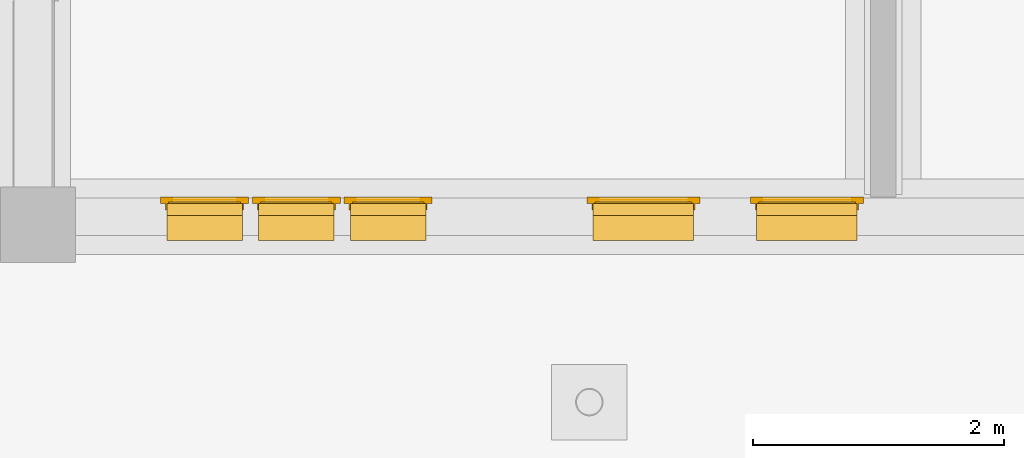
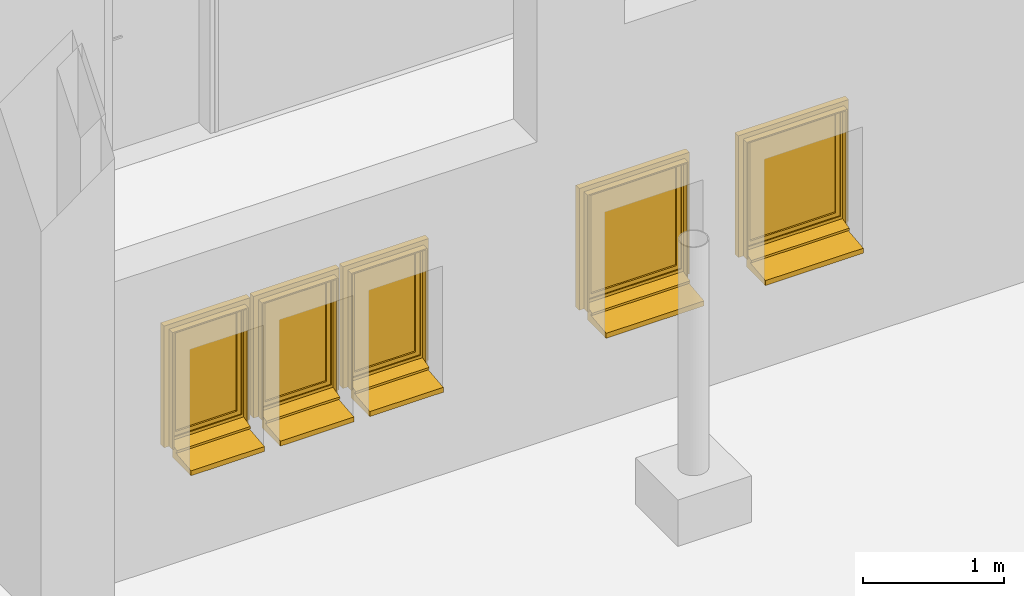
# One storey, part 13 of 20: 5 windows.
"""IFC2X3 building model written with IfcOpenShell, lengths in metres."""

from ifc_helpers import new_model, entity, si_unit, converted_unit, derived_unit, direction, frame, origin, place, context, subcontext, project, spatial, faceted_brep, source, transform, mapped, material, material_list, type_object, type_shapes, element, save


model = new_model("IFC2X3")

# Units and contexts
model_context = context("Model", 3, precision=1e-05, world=origin(), true_north=direction((6.12303176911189e-17, 1.0)))
body_context = subcontext(model_context, "Body", "Model", "MODEL_VIEW")
ifc_project = project(units=[si_unit("LENGTHUNIT", "METRE"), si_unit("AREAUNIT", "SQUARE_METRE"), si_unit("VOLUMEUNIT", "CUBIC_METRE"), converted_unit("PLANEANGLEUNIT", "DEGREE", entity("IfcRatioMeasure", 0.0174532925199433), si_unit("PLANEANGLEUNIT", "RADIAN"), dimensions=[0, 0, 0, 0, 0, 0, 0]), si_unit("MASSUNIT", "GRAM", prefix="KILO"), derived_unit("MASSDENSITYUNIT", [(si_unit("MASSUNIT", "GRAM", prefix="KILO"), 1), (si_unit("LENGTHUNIT", "METRE"), -3)]), derived_unit("MOMENTOFINERTIAUNIT", [(si_unit("LENGTHUNIT", "METRE"), 4)]), si_unit("TIMEUNIT", "SECOND"), si_unit("FREQUENCYUNIT", "HERTZ"), si_unit("THERMODYNAMICTEMPERATUREUNIT", "DEGREE_CELSIUS"), derived_unit("THERMALTRANSMITTANCEUNIT", [(si_unit("MASSUNIT", "GRAM", prefix="KILO"), 1), (si_unit("THERMODYNAMICTEMPERATUREUNIT", "KELVIN"), -1), (si_unit("TIMEUNIT", "SECOND"), -3)]), derived_unit("VOLUMETRICFLOWRATEUNIT", [(si_unit("LENGTHUNIT", "METRE"), 3), (si_unit("TIMEUNIT", "SECOND"), -1)]), si_unit("ELECTRICCURRENTUNIT", "AMPERE"), si_unit("ELECTRICVOLTAGEUNIT", "VOLT"), si_unit("POWERUNIT", "WATT"), si_unit("FORCEUNIT", "NEWTON", prefix="KILO"), si_unit("ILLUMINANCEUNIT", "LUX"), si_unit("LUMINOUSFLUXUNIT", "LUMEN"), si_unit("LUMINOUSINTENSITYUNIT", "CANDELA"), derived_unit("USERDEFINED", [(si_unit("MASSUNIT", "GRAM", prefix="KILO"), -1), (si_unit("LENGTHUNIT", "METRE"), -2), (si_unit("TIMEUNIT", "SECOND"), 3), (si_unit("LUMINOUSFLUXUNIT", "LUMEN"), 1)]), derived_unit("LINEARVELOCITYUNIT", [(si_unit("LENGTHUNIT", "METRE"), 1), (si_unit("TIMEUNIT", "SECOND"), -1)]), si_unit("PRESSUREUNIT", "PASCAL"), derived_unit("USERDEFINED", [(si_unit("LENGTHUNIT", "METRE"), -2), (si_unit("MASSUNIT", "GRAM", prefix="KILO"), 1), (si_unit("TIMEUNIT", "SECOND"), -2)]), derived_unit("LINEARFORCEUNIT", [(si_unit("MASSUNIT", "GRAM", prefix="KILO"), 1), (si_unit("LENGTHUNIT", "METRE"), 1), (si_unit("TIMEUNIT", "SECOND"), -2), (si_unit("LENGTHUNIT", "METRE"), -1)]), derived_unit("PLANARFORCEUNIT", [(si_unit("MASSUNIT", "GRAM", prefix="KILO"), 1), (si_unit("LENGTHUNIT", "METRE"), 1), (si_unit("TIMEUNIT", "SECOND"), -2), (si_unit("LENGTHUNIT", "METRE"), -2)])], contexts=[model_context])

# Site, building, storey
site_placement = place(None, origin())
site = spatial("IfcSite", under=ifc_project, at=site_placement, Name="Surface", CompositionType="ELEMENT")
building_placement = place(site_placement, origin())
building = spatial("IfcBuilding", under=site, at=building_placement, CompositionType="ELEMENT")
storey_placement = place(building_placement, origin())
storey = spatial("IfcBuildingStorey", under=building, at=storey_placement, Name="Niveau rdc", CompositionType="ELEMENT", Elevation=-1.94916083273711e-14)

# Windows
ifc_material_1 = material(Name="Fenêtre - Poignée")
ifc_material_2 = material(Name="Fenêtre - Appui")
ifc_material_3 = material(Name="Fenêtre - Vitrage")
ifc_material_4 = material(Name="Fenêtre - Cadre(1)")
ifc_material_5 = material(Name="Fenêtre - Cadre")
ifc_material_list_1 = material_list([ifc_material_1, ifc_material_2, ifc_material_3, ifc_material_4, ifc_material_5])
ifc_material_list_2 = material_list([ifc_material_1, ifc_material_2, ifc_material_4, ifc_material_5, ifc_material_3])
window_style_1 = type_object("IfcWindowStyle", Name="1 Vantail - Droit:0.80m x 1.00m - Appui Béton 2", ConstructionType="NOTDEFINED", OperationType="SINGLE_PANEL", ParameterTakesPrecedence=False, Sizeable=False, material=ifc_material_list_2)
shared_shape_1 = source(origin(), body_context, "Body", "Brep", [
    faceted_brep([(0.0806460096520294, -0.67100000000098, 0.702033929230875), (0.0820339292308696, -0.67100000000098, 0.700646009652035), (0.0820339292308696, -0.67100000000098, 0.68933230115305), (0.0806676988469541, -0.67100000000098, 0.687966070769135), (0.0693323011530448, -0.67100000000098, 0.687966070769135), (0.0679660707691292, -0.67100000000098, 0.689332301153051), (0.0679660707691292, -0.67100000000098, 0.700646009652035), (0.0693539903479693, -0.67100000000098, 0.702033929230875), (0.0806460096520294, -0.683913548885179, 0.702033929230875), (0.0820339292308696, -0.68333865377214, 0.700646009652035), (0.0820339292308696, -0.69664600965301, 0.687338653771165), (0.0820339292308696, -0.69664600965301, 0.600000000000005), (0.0820339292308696, -0.685332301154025, 0.600000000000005), (0.0820339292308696, -0.685332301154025, 0.68265236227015), (0.0820339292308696, -0.678652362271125, 0.68933230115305), (0.0806676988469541, -0.678086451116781, 0.687966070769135), (0.0693323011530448, -0.678086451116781, 0.687966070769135), (0.0679660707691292, -0.678652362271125, 0.689332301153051), (0.0679660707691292, -0.685332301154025, 0.68265236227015), (0.0679660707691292, -0.685332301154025, 0.600000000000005), (0.0679660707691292, -0.69664600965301, 0.600000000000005), (0.0679660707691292, -0.69664600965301, 0.687338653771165), (0.0679660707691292, -0.68333865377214, 0.700646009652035), (0.0693539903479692, -0.683913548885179, 0.702033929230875), (0.0806460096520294, -0.69803392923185, 0.687913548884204), (0.0806676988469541, -0.68396607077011, 0.682086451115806), (0.0693323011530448, -0.683966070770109, 0.682086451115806), (0.0693539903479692, -0.69803392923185, 0.687913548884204), (0.0806460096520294, -0.69803392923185, 0.600000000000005), (0.0693539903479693, -0.69803392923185, 0.600000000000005), (0.0693323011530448, -0.683966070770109, 0.600000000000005), (0.0806676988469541, -0.683966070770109, 0.600000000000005)], [[[0, 1, 2, 3, 4, 5, 6, 7]], [[1, 0, 8, 9]], [[2, 1, 9, 10, 11, 12, 13, 14]], [[3, 2, 14, 15]], [[4, 3, 15, 16]], [[5, 4, 16, 17]], [[6, 5, 17, 18, 19, 20, 21, 22]], [[7, 6, 22, 23]], [[0, 7, 23, 8]], [[9, 8, 24, 10]], [[15, 14, 13, 25]], [[16, 15, 25, 26]], [[17, 16, 26, 18]], [[23, 22, 21, 27]], [[8, 23, 27, 24]], [[28, 29, 20, 19, 30, 31, 12, 11]], [[10, 24, 28, 11]], [[25, 13, 12, 31]], [[26, 25, 31, 30]], [[18, 26, 30, 19]], [[27, 21, 20, 29]], [[24, 27, 29, 28]]]),
    faceted_brep([(0.0820000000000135, -0.671000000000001, 0.720000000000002), (0.0679999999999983, -0.671000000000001, 0.720000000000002), (0.0629999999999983, -0.671000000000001, 0.715000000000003), (0.0629999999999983, -0.671000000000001, 0.644999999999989), (0.0679999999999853, -0.671000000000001, 0.640000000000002), (0.0820000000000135, -0.671000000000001, 0.640000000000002), (0.0869999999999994, -0.671000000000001, 0.644999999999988), (0.0869999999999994, -0.671000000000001, 0.715000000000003), (0.0820000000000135, -0.665000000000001, 0.720000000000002), (0.0869999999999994, -0.665000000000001, 0.715000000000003), (0.0869999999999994, -0.665000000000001, 0.644999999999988), (0.0820000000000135, -0.665000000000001, 0.640000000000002), (0.0679999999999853, -0.665000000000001, 0.640000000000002), (0.0629999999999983, -0.665000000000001, 0.644999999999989), (0.0629999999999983, -0.665000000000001, 0.715000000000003), (0.0679999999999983, -0.665000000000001, 0.720000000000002)], [[[0, 1, 2, 3, 4, 5, 6, 7]], [[8, 9, 10, 11, 12, 13, 14, 15]], [[1, 0, 8, 15]], [[2, 1, 15, 14]], [[3, 2, 14, 13]], [[4, 3, 13, 12]], [[5, 4, 12, 11]], [[6, 5, 11, 10]], [[7, 6, 10, 9]], [[0, 7, 9, 8]]]),
    faceted_brep([(0.0499999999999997, -0.584999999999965, 0.0799999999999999), (0.0499999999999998, -0.534999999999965, 0.0799999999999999), (0.0499999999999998, -0.534999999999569, 0.0650000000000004), (0.0500000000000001, -0.319999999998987, 0.0424025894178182), (0.0500000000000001, -0.319999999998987, 0.0), (0.0499999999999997, -0.584999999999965, 0.0), (0.85, -0.584999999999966, 0.0799999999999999), (0.85, -0.584999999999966, 0.0), (0.85, -0.319999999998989, 0.0), (0.85, -0.319999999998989, 0.0424025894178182), (0.85, -0.534999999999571, 0.0650000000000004), (0.85, -0.534999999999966, 0.0799999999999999)], [[[0, 1, 2, 3, 4, 5]], [[6, 7, 8, 9, 10, 11]], [[1, 0, 6, 11]], [[2, 1, 11, 10]], [[3, 2, 10, 9]], [[4, 3, 9, 8]], [[5, 4, 8, 7]], [[0, 5, 7, 6]]]),
    faceted_brep([(0.099999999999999, -0.639000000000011, 0.179999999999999), (0.099999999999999, -0.639000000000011, 1.03), (0.8, -0.639000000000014, 1.03), (0.8, -0.639000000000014, 0.179999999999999), (0.0999999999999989, -0.651000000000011, 0.179999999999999), (0.8, -0.651000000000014, 0.179999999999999), (0.8, -0.651000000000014, 1.03), (0.0999999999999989, -0.651000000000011, 1.03)], [[[0, 1, 2, 3]], [[4, 5, 6, 7]], [[1, 0, 4, 7]], [[2, 1, 7, 6]], [[3, 2, 6, 5]], [[0, 3, 5, 4]]]),
    faceted_brep([(0.099999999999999, -0.625000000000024, 0.179999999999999), (0.0999999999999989, -0.665000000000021, 0.179999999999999), (0.8, -0.665000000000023, 0.179999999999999), (0.8, -0.625000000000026, 0.179999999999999), (0.0499999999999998, -0.66500000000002, 0.13), (0.0499999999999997, -0.625000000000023, 0.13), (0.85, -0.625000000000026, 0.13), (0.85, -0.665000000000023, 0.13), (0.8, -0.665000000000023, 1.03), (0.8, -0.625000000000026, 1.03), (0.85, -0.625000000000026, 1.08), (0.85, -0.665000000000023, 1.08), (0.0999999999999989, -0.665000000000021, 1.03), (0.0999999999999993, -0.625000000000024, 1.03), (0.0499999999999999, -0.625000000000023, 1.08), (0.0499999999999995, -0.665000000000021, 1.08)], [[[0, 1, 2, 3]], [[4, 5, 6, 7]], [[3, 2, 8, 9]], [[7, 6, 10, 11]], [[9, 8, 12, 13]], [[11, 10, 14, 15]], [[13, 12, 1, 0]], [[3, 9, 13, 0], [5, 14, 10, 6]], [[15, 14, 5, 4]], [[7, 11, 15, 4], [1, 12, 8, 2]]], outer=[[True], [True], [True], [True], [True], [True], [True], [False, True], [True], [True, False]]),
    faceted_brep([(0.0, -0.665000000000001, 0.0799999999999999), (0.0, -0.615000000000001, 0.0799999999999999), (0.0499999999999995, -0.615000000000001, 0.0799999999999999), (0.0499999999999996, -0.530000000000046, 0.0799999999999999), (0.85, -0.530000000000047, 0.0800000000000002), (0.85, -0.615000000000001, 0.0799999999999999), (0.899999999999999, -0.615000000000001, 0.0799999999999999), (0.899999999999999, -0.665000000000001, 0.0799999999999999), (0.0, -0.665000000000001, 1.13), (0.0, -0.615000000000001, 1.13), (0.899999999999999, -0.615000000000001, 1.13), (0.85, -0.615000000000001, 0.119376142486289), (0.0499999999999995, -0.615000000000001, 0.119376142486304), (0.0649999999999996, -0.615000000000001, 1.065), (0.0649999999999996, -0.615000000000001, 0.145), (0.835, -0.615000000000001, 0.145), (0.835, -0.615000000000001, 1.065), (0.0499999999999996, -0.520000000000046, 0.0939209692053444), (0.0499999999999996, -0.520000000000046, 0.0749999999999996), (0.0499999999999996, -0.530000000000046, 0.0749999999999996), (0.85, -0.530000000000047, 0.0749999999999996), (0.85, -0.520000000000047, 0.0749999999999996), (0.85, -0.520000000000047, 0.0939209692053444), (0.899999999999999, -0.665000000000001, 1.13), (0.85, -0.665000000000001, 1.08), (0.85, -0.665000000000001, 0.13), (0.0499999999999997, -0.665000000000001, 0.13), (0.0499999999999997, -0.665000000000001, 1.08), (0.0649999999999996, -0.625000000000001, 1.065), (0.0649999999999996, -0.625000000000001, 0.145), (0.835, -0.625000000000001, 0.145), (0.835, -0.625000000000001, 1.065), (0.85, -0.625000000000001, 1.08), (0.0499999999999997, -0.625000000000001, 1.08), (0.0499999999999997, -0.625000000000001, 0.13), (0.85, -0.625000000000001, 0.13)], [[[0, 1, 2, 3, 4, 5, 6, 7]], [[1, 0, 8, 9]], [[1, 9, 10, 6, 5, 11, 12, 2], [13, 14, 15, 16]], [[12, 17, 18, 19, 3, 2]], [[3, 19, 20, 4]], [[4, 20, 21, 22, 11, 5]], [[6, 10, 23, 7]], [[0, 7, 23, 8], [24, 25, 26, 27]], [[13, 28, 29, 14]], [[29, 30, 15, 14]], [[31, 16, 15, 30]], [[13, 16, 31, 28]], [[17, 12, 11, 22]], [[28, 31, 30, 29], [32, 33, 34, 35]], [[34, 33, 27, 26]], [[26, 25, 35, 34]], [[24, 32, 35, 25]], [[18, 17, 22, 21]], [[19, 18, 21, 20]], [[33, 32, 24, 27]], [[10, 9, 8, 23]]], outer=[[True], [True], [True, False], [True], [True], [True], [True], [True, False], [True], [True], [True], [True], [True], [False, True], [True], [True], [True], [True], [True], [True], [True]]),
    faceted_brep([(0.0499999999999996, -0.564999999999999, 0.0799999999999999), (0.0499999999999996, -0.615000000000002, 0.0799999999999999), (0.0399999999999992, -0.615000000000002, 0.0799999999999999), (0.0399999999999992, -0.564999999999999, 0.0799999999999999), (0.0499999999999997, -0.564999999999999, 1.08), (0.0499999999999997, -0.615000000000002, 1.08), (0.85, -0.615000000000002, 1.08), (0.85, -0.615000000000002, 0.0799999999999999), (0.86, -0.615000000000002, 0.0799999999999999), (0.86, -0.615000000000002, 1.09), (0.0399999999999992, -0.615000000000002, 1.09), (0.0399999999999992, -0.564999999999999, 1.09), (0.86, -0.564999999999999, 1.09), (0.86, -0.564999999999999, 0.0799999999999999), (0.85, -0.564999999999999, 0.0799999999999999), (0.85, -0.564999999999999, 1.08)], [[[0, 1, 2, 3]], [[1, 0, 4, 5]], [[2, 1, 5, 6, 7, 8, 9, 10]], [[3, 2, 10, 11]], [[0, 3, 11, 12, 13, 14, 15, 4]], [[6, 15, 14, 7]], [[14, 13, 8, 7]], [[12, 9, 8, 13]], [[5, 4, 15, 6]], [[11, 10, 9, 12]]]),
])
type_shapes(window_style_1, [shared_shape_1])
window_1_placement = place(storey_placement, frame((8.31939607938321, -1.0907418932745, 0.720000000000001), z_axis=(0.0, 0.0, 1.0), x_axis=(-1.0, 0.0, 0.0)))
element("IfcWindow", 1, at=window_1_placement, inside=storey, type_object=window_style_1, material=ifc_material_list_1, Name="1 Vantail - Droit:0.80m x 1.00m - Appui Béton 2", ObjectType="1 Vantail - Droit:0.80m x 1.00m - Appui Béton 2", OverallHeight=1.13, OverallWidth=0.9, context=body_context, shape_type="MappedRepresentation", body=[
    mapped(shared_shape_1, transform((0.0, 0.0, 0.0), scale=1.0)),
])
ifc_material_list_3 = material_list([ifc_material_1, ifc_material_2, ifc_material_3, ifc_material_4, ifc_material_5])
window_2_placement = place(storey_placement, frame((7.01939607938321, -1.09074189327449, 0.720000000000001), z_axis=(0.0, 0.0, 1.0), x_axis=(-1.0, 0.0, 0.0)))
element("IfcWindow", 2, at=window_2_placement, inside=storey, type_object=window_style_1, material=ifc_material_list_3, Name="1 Vantail - Droit:0.80m x 1.00m - Appui Béton 2", ObjectType="1 Vantail - Droit:0.80m x 1.00m - Appui Béton 2", OverallHeight=1.13, OverallWidth=0.9, context=body_context, shape_type="MappedRepresentation", body=[
    mapped(shared_shape_1, transform((0.0, 0.0, 0.0), scale=1.0)),
])
ifc_material_list_4 = material_list([ifc_material_1, ifc_material_2, ifc_material_3, ifc_material_5])
ifc_material_list_5 = material_list([ifc_material_5, ifc_material_3, ifc_material_2, ifc_material_1])
window_style_2 = type_object("IfcWindowStyle", Name="1 Vantail - Droit:0.60m x 1.00m - Appui Béton 3", ConstructionType="NOTDEFINED", OperationType="SINGLE_PANEL", ParameterTakesPrecedence=False, Sizeable=False, material=ifc_material_list_5)
shared_shape_2 = source(origin(), body_context, "Body", "Brep", [
    faceted_brep([(0.0806460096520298, -0.67100000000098, 0.702033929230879), (0.08203392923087, -0.67100000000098, 0.700646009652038), (0.08203392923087, -0.67100000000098, 0.689332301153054), (0.0806676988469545, -0.67100000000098, 0.687966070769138), (0.0693323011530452, -0.67100000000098, 0.687966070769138), (0.0679660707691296, -0.67100000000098, 0.689332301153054), (0.0679660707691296, -0.67100000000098, 0.700646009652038), (0.0693539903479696, -0.67100000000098, 0.702033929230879), (0.0806460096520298, -0.683913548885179, 0.702033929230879), (0.08203392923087, -0.68333865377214, 0.700646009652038), (0.08203392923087, -0.69664600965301, 0.687338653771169), (0.08203392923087, -0.69664600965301, 0.600000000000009), (0.08203392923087, -0.685332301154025, 0.600000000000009), (0.08203392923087, -0.685332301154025, 0.682652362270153), (0.08203392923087, -0.678652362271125, 0.689332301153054), (0.0806676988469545, -0.67808645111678, 0.687966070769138), (0.0693323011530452, -0.67808645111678, 0.687966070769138), (0.0679660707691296, -0.678652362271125, 0.689332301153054), (0.0679660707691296, -0.685332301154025, 0.682652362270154), (0.0679660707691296, -0.685332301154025, 0.600000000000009), (0.0679660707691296, -0.69664600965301, 0.600000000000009), (0.0679660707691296, -0.69664600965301, 0.687338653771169), (0.0679660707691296, -0.68333865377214, 0.700646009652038), (0.0693539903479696, -0.683913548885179, 0.702033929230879), (0.0806460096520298, -0.69803392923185, 0.687913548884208), (0.0806676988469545, -0.683966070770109, 0.68208645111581), (0.0693323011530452, -0.683966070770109, 0.68208645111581), (0.0693539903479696, -0.69803392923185, 0.687913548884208), (0.0806460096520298, -0.69803392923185, 0.600000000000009), (0.0693539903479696, -0.69803392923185, 0.600000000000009), (0.0693323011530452, -0.683966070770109, 0.600000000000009), (0.0806676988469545, -0.683966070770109, 0.600000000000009)], [[[0, 1, 2, 3, 4, 5, 6, 7]], [[1, 0, 8, 9]], [[2, 1, 9, 10, 11, 12, 13, 14]], [[3, 2, 14, 15]], [[4, 3, 15, 16]], [[5, 4, 16, 17]], [[6, 5, 17, 18, 19, 20, 21, 22]], [[7, 6, 22, 23]], [[0, 7, 23, 8]], [[9, 8, 24, 10]], [[15, 14, 13, 25]], [[16, 15, 25, 26]], [[17, 16, 26, 18]], [[23, 22, 21, 27]], [[8, 23, 27, 24]], [[28, 29, 20, 19, 30, 31, 12, 11]], [[10, 24, 28, 11]], [[25, 13, 12, 31]], [[26, 25, 31, 30]], [[18, 26, 30, 19]], [[27, 21, 20, 29]], [[24, 27, 29, 28]]]),
    faceted_brep([(0.0820000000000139, -0.671000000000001, 0.720000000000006), (0.0679999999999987, -0.671000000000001, 0.720000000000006), (0.0629999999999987, -0.671000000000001, 0.715000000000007), (0.0629999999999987, -0.671000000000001, 0.644999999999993), (0.0679999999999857, -0.671000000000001, 0.640000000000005), (0.0820000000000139, -0.671000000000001, 0.640000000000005), (0.0869999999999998, -0.671000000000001, 0.644999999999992), (0.0869999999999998, -0.671000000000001, 0.715000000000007), (0.0820000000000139, -0.665000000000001, 0.720000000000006), (0.0869999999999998, -0.665000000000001, 0.715000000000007), (0.0869999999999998, -0.665000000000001, 0.644999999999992), (0.0820000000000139, -0.665000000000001, 0.640000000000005), (0.0679999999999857, -0.665000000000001, 0.640000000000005), (0.0629999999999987, -0.665000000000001, 0.644999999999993), (0.0629999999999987, -0.665000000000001, 0.715000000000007), (0.0679999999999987, -0.665000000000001, 0.720000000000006)], [[[0, 1, 2, 3, 4, 5, 6, 7]], [[8, 9, 10, 11, 12, 13, 14, 15]], [[1, 0, 8, 15]], [[2, 1, 15, 14]], [[3, 2, 14, 13]], [[4, 3, 13, 12]], [[5, 4, 12, 11]], [[6, 5, 11, 10]], [[7, 6, 10, 9]], [[0, 7, 9, 8]]]),
    faceted_brep([(0.0499999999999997, -0.584999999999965, 0.0799999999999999), (0.0499999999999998, -0.534999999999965, 0.0799999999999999), (0.0499999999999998, -0.534999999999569, 0.0650000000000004), (0.0500000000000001, -0.319999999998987, 0.0424025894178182), (0.0500000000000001, -0.319999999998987, 0.0), (0.0499999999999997, -0.584999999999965, 0.0), (0.649999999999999, -0.584999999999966, 0.0799999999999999), (0.649999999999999, -0.584999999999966, 0.0), (0.65, -0.319999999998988, 0.0), (0.65, -0.319999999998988, 0.0424025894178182), (0.649999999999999, -0.53499999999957, 0.0650000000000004), (0.649999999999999, -0.534999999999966, 0.0799999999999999)], [[[0, 1, 2, 3, 4, 5]], [[6, 7, 8, 9, 10, 11]], [[1, 0, 6, 11]], [[2, 1, 11, 10]], [[3, 2, 10, 9]], [[4, 3, 9, 8]], [[5, 4, 8, 7]], [[0, 5, 7, 6]]]),
    faceted_brep([(0.0999999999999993, -0.639000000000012, 0.18), (0.0999999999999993, -0.639000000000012, 1.03), (0.6, -0.639000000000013, 1.03), (0.6, -0.639000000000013, 0.18), (0.0999999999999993, -0.651000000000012, 0.18), (0.0999999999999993, -0.651000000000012, 1.03), (0.599999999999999, -0.651000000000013, 1.03), (0.599999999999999, -0.651000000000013, 0.18)], [[[0, 1, 2, 3]], [[1, 0, 4, 5]], [[3, 2, 6, 7]], [[0, 3, 7, 4]], [[4, 7, 6, 5]], [[2, 1, 5, 6]]]),
    faceted_brep([(0.0999999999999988, -0.625000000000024, 1.03), (0.0999999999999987, -0.665000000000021, 1.03), (0.0999999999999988, -0.665000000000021, 0.179999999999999), (0.099999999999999, -0.625000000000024, 0.179999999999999), (0.6, -0.665000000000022, 0.179999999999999), (0.6, -0.625000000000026, 0.179999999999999), (0.6, -0.665000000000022, 1.03), (0.649999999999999, -0.665000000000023, 0.13), (0.649999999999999, -0.665000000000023, 1.08), (0.0499999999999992, -0.665000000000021, 1.08), (0.0499999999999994, -0.665000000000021, 0.13), (0.6, -0.625000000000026, 1.03), (0.0499999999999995, -0.625000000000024, 0.13), (0.0499999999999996, -0.625000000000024, 1.08), (0.65, -0.625000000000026, 1.08), (0.65, -0.625000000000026, 0.13)], [[[0, 1, 2, 3]], [[3, 2, 4, 5]], [[2, 1, 6, 4], [7, 8, 9, 10]], [[5, 4, 6, 11]], [[5, 11, 0, 3], [12, 13, 14, 15]], [[9, 13, 12, 10]], [[10, 12, 15, 7]], [[7, 15, 14, 8]], [[11, 6, 1, 0]], [[8, 14, 13, 9]]], outer=[[True], [True], [False, True], [True], [False, True], [True], [True], [True], [True], [True]]),
    faceted_brep([(0.0, -0.665000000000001, 0.0799999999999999), (0.0, -0.615000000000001, 0.0799999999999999), (0.0499999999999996, -0.615000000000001, 0.0799999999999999), (0.0499999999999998, -0.530000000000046, 0.0799999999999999), (0.649999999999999, -0.530000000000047, 0.0800000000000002), (0.649999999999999, -0.615000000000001, 0.0799999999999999), (0.699999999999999, -0.615000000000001, 0.0799999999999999), (0.699999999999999, -0.665000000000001, 0.0799999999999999), (0.0, -0.665000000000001, 1.13), (0.0, -0.615000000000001, 1.13), (0.699999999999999, -0.615000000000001, 1.13), (0.649999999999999, -0.615000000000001, 0.119376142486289), (0.0499999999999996, -0.615000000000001, 0.119376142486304), (0.0649999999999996, -0.615000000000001, 1.065), (0.0649999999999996, -0.615000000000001, 0.145), (0.634999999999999, -0.615000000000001, 0.145), (0.634999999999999, -0.615000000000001, 1.065), (0.0499999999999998, -0.520000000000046, 0.0939209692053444), (0.0499999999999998, -0.520000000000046, 0.0749999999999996), (0.0499999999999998, -0.530000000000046, 0.0749999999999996), (0.649999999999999, -0.530000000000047, 0.0749999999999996), (0.649999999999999, -0.520000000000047, 0.0749999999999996), (0.649999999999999, -0.520000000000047, 0.0939209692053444), (0.699999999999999, -0.665000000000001, 1.13), (0.649999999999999, -0.665000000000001, 1.08), (0.649999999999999, -0.665000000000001, 0.13), (0.0499999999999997, -0.665000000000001, 0.13), (0.0499999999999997, -0.665000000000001, 1.08), (0.0649999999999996, -0.625000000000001, 1.065), (0.0649999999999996, -0.625000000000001, 0.145), (0.634999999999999, -0.625000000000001, 0.145), (0.634999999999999, -0.625000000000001, 1.065), (0.649999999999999, -0.625000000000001, 1.08), (0.0499999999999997, -0.625000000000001, 1.08), (0.0499999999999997, -0.625000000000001, 0.13), (0.649999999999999, -0.625000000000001, 0.13)], [[[0, 1, 2, 3, 4, 5, 6, 7]], [[1, 0, 8, 9]], [[1, 9, 10, 6, 5, 11, 12, 2], [13, 14, 15, 16]], [[12, 17, 18, 19, 3, 2]], [[3, 19, 20, 4]], [[4, 20, 21, 22, 11, 5]], [[6, 10, 23, 7]], [[0, 7, 23, 8], [24, 25, 26, 27]], [[13, 28, 29, 14]], [[29, 30, 15, 14]], [[31, 16, 15, 30]], [[17, 12, 11, 22]], [[32, 33, 34, 35], [28, 31, 30, 29]], [[34, 33, 27, 26]], [[26, 25, 35, 34]], [[24, 32, 35, 25]], [[18, 17, 22, 21]], [[19, 18, 21, 20]], [[13, 16, 31, 28]], [[33, 32, 24, 27]], [[10, 9, 8, 23]]]),
    faceted_brep([(0.0499999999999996, -0.564999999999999, 0.0799999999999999), (0.0499999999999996, -0.615000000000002, 0.0799999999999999), (0.0399999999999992, -0.615000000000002, 0.0799999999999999), (0.0399999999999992, -0.564999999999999, 0.0799999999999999), (0.0499999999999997, -0.564999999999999, 1.08), (0.0499999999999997, -0.615000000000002, 1.08), (0.649999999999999, -0.615000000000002, 1.08), (0.649999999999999, -0.615000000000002, 0.0799999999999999), (0.66, -0.615000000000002, 0.0799999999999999), (0.66, -0.615000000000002, 1.09), (0.0399999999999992, -0.615000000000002, 1.09), (0.0399999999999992, -0.564999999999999, 1.09), (0.66, -0.564999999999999, 1.09), (0.66, -0.564999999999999, 0.0799999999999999), (0.649999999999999, -0.564999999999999, 0.0799999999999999), (0.649999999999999, -0.564999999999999, 1.08)], [[[0, 1, 2, 3]], [[1, 0, 4, 5]], [[2, 1, 5, 6, 7, 8, 9, 10]], [[3, 2, 10, 11]], [[0, 3, 11, 12, 13, 14, 15, 4]], [[6, 15, 14, 7]], [[14, 13, 8, 7]], [[12, 9, 8, 13]], [[5, 4, 15, 6]], [[11, 10, 9, 12]]]),
])
type_shapes(window_style_2, [shared_shape_2])
window_3_placement = place(storey_placement, frame((4.8893960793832, -1.09074189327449, 0.720000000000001), z_axis=(0.0, 0.0, 1.0), x_axis=(-1.0, 0.0, 0.0)))
element("IfcWindow", 3, at=window_3_placement, inside=storey, type_object=window_style_2, material=ifc_material_list_4, Name="1 Vantail - Droit:0.60m x 1.00m - Appui Béton 3", ObjectType="1 Vantail - Droit:0.60m x 1.00m - Appui Béton 3", OverallHeight=1.13, OverallWidth=0.699999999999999, context=body_context, shape_type="MappedRepresentation", body=[
    mapped(shared_shape_2, transform((0.0, 0.0, 0.0), scale=1.0)),
])
ifc_material_list_6 = material_list([ifc_material_1, ifc_material_2, ifc_material_3, ifc_material_5])
window_4_placement = place(storey_placement, frame((4.1593960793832, -1.09074189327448, 0.720000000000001), z_axis=(0.0, 0.0, 1.0), x_axis=(-1.0, 0.0, 0.0)))
element("IfcWindow", 4, at=window_4_placement, inside=storey, type_object=window_style_2, material=ifc_material_list_6, Name="1 Vantail - Droit:0.60m x 1.00m - Appui Béton 3", ObjectType="1 Vantail - Droit:0.60m x 1.00m - Appui Béton 3", OverallHeight=1.13, OverallWidth=0.699999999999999, context=body_context, shape_type="MappedRepresentation", body=[
    mapped(shared_shape_2, transform((0.0, 0.0, 0.0), scale=1.0)),
])
ifc_material_list_7 = material_list([ifc_material_1, ifc_material_2, ifc_material_3, ifc_material_5])
window_5_placement = place(storey_placement, frame((3.4293960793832, -1.09074189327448, 0.720000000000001), z_axis=(0.0, 0.0, 1.0), x_axis=(-1.0, 0.0, 0.0)))
element("IfcWindow", 5, at=window_5_placement, inside=storey, type_object=window_style_2, material=ifc_material_list_7, Name="1 Vantail - Droit:0.60m x 1.00m - Appui Béton 3", ObjectType="1 Vantail - Droit:0.60m x 1.00m - Appui Béton 3", OverallHeight=1.13, OverallWidth=0.699999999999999, context=body_context, shape_type="MappedRepresentation", body=[
    mapped(shared_shape_2, transform((0.0, 0.0, 0.0), scale=1.0)),
])

save(model, "model.ifc")
